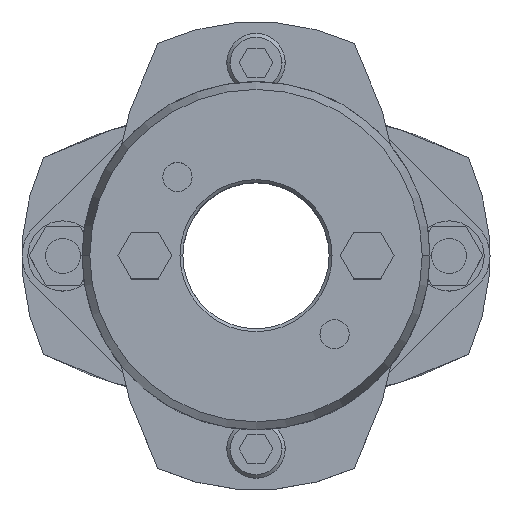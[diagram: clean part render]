
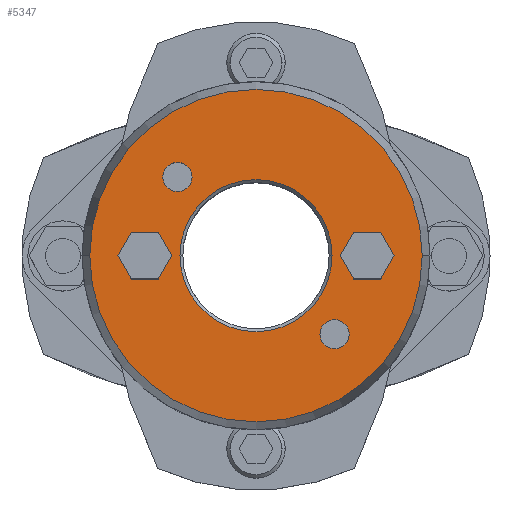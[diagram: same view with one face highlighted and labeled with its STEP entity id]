
A CAD part, top view. The second image highlights one B-rep face of the part: STEP entity #5347.
In plain terms, the highlighted planar face has unit normal (0, 0, 1).
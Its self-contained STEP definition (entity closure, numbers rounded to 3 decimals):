
#857=CARTESIAN_POINT('',(-13.,0.,35.875));
#858=VERTEX_POINT('',#857);
#874=CARTESIAN_POINT('',(13.,0.,35.875));
#875=VERTEX_POINT('',#874);
#882=CARTESIAN_POINT('',(0.,0.,35.875));
#883=DIRECTION('',(0.0,0.0,1.0));
#884=DIRECTION('',(-1.0,0.0,0.0));
#885=AXIS2_PLACEMENT_3D('',#882,#883,#884);
#886=CIRCLE('',#885,13.0);
#887=EDGE_CURVE('',#875,#858,#886,.T.);
#1003=CARTESIAN_POINT('',(28.41,0.,35.875));
#1004=VERTEX_POINT('',#1003);
#1013=CARTESIAN_POINT('',(-28.41,0.,35.875));
#1014=VERTEX_POINT('',#1013);
#1015=CARTESIAN_POINT('',(0.,0.,35.875));
#1016=DIRECTION('',(0.0,0.0,-1.0));
#1017=DIRECTION('',(1.0,0.0,0.0));
#1018=AXIS2_PLACEMENT_3D('',#1015,#1016,#1017);
#1019=CIRCLE('',#1018,28.41);
#1020=EDGE_CURVE('',#1004,#1014,#1019,.T.);
#1189=CARTESIAN_POINT('',(-15.935,13.435,35.875));
#1190=VERTEX_POINT('',#1189);
#1206=CARTESIAN_POINT('',(-10.935,13.435,35.875));
#1207=VERTEX_POINT('',#1206);
#1214=CARTESIAN_POINT('',(-13.435,13.435,35.875));
#1215=DIRECTION('',(0.0,0.0,-1.0));
#1216=DIRECTION('',(-1.0,0.0,0.0));
#1217=AXIS2_PLACEMENT_3D('',#1214,#1215,#1216);
#1218=CIRCLE('',#1217,2.5);
#1219=EDGE_CURVE('',#1190,#1207,#1218,.T.);
#1231=CARTESIAN_POINT('',(10.935,-13.435,35.875));
#1232=VERTEX_POINT('',#1231);
#1248=CARTESIAN_POINT('',(15.935,-13.435,35.875));
#1249=VERTEX_POINT('',#1248);
#1256=CARTESIAN_POINT('',(13.435,-13.435,35.875));
#1257=DIRECTION('',(0.0,0.0,-1.0));
#1258=DIRECTION('',(-1.0,0.0,0.0));
#1259=AXIS2_PLACEMENT_3D('',#1256,#1257,#1258);
#1260=CIRCLE('',#1259,2.5);
#1261=EDGE_CURVE('',#1232,#1249,#1260,.T.);
#4473=CARTESIAN_POINT('',(14.381,0.,35.875));
#4474=VERTEX_POINT('',#4473);
#4481=CARTESIAN_POINT('',(16.691,-4.,35.875));
#4482=VERTEX_POINT('',#4481);
#4483=CARTESIAN_POINT('',(16.691,-4.,35.875));
#4484=DIRECTION('',(-0.5,0.866,0.0));
#4485=VECTOR('',#4484,4.619);
#4486=LINE('',#4483,#4485);
#4487=EDGE_CURVE('',#4482,#4474,#4486,.T.);
#4511=CARTESIAN_POINT('',(16.691,4.,35.875));
#4512=VERTEX_POINT('',#4511);
#4519=CARTESIAN_POINT('',(14.381,0.,35.875));
#4520=DIRECTION('',(0.5,0.866,0.0));
#4521=VECTOR('',#4520,4.619);
#4522=LINE('',#4519,#4521);
#4523=EDGE_CURVE('',#4474,#4512,#4522,.T.);
#4542=CARTESIAN_POINT('',(21.309,4.,35.875));
#4543=VERTEX_POINT('',#4542);
#4550=CARTESIAN_POINT('',(16.691,4.,35.875));
#4551=DIRECTION('',(1.0,0.0,0.0));
#4552=VECTOR('',#4551,4.619);
#4553=LINE('',#4550,#4552);
#4554=EDGE_CURVE('',#4512,#4543,#4553,.T.);
#4573=CARTESIAN_POINT('',(23.619,0.,35.875));
#4574=VERTEX_POINT('',#4573);
#4581=CARTESIAN_POINT('',(21.309,4.,35.875));
#4582=DIRECTION('',(0.5,-0.866,0.0));
#4583=VECTOR('',#4582,4.619);
#4584=LINE('',#4581,#4583);
#4585=EDGE_CURVE('',#4543,#4574,#4584,.T.);
#4604=CARTESIAN_POINT('',(21.309,-4.,35.875));
#4605=VERTEX_POINT('',#4604);
#4612=CARTESIAN_POINT('',(23.619,0.,35.875));
#4613=DIRECTION('',(-0.5,-0.866,0.0));
#4614=VECTOR('',#4613,4.619);
#4615=LINE('',#4612,#4614);
#4616=EDGE_CURVE('',#4574,#4605,#4615,.T.);
#4634=CARTESIAN_POINT('',(21.309,-4.,35.875));
#4635=DIRECTION('',(-1.0,0.0,0.0));
#4636=VECTOR('',#4635,4.619);
#4637=LINE('',#4634,#4636);
#4638=EDGE_CURVE('',#4605,#4482,#4637,.T.);
#4673=CARTESIAN_POINT('',(-23.619,0.,35.875));
#4674=VERTEX_POINT('',#4673);
#4681=CARTESIAN_POINT('',(-21.309,-4.,35.875));
#4682=VERTEX_POINT('',#4681);
#4683=CARTESIAN_POINT('',(-21.309,-4.,35.875));
#4684=DIRECTION('',(-0.5,0.866,0.0));
#4685=VECTOR('',#4684,4.619);
#4686=LINE('',#4683,#4685);
#4687=EDGE_CURVE('',#4682,#4674,#4686,.T.);
#4711=CARTESIAN_POINT('',(-21.309,4.,35.875));
#4712=VERTEX_POINT('',#4711);
#4719=CARTESIAN_POINT('',(-23.619,0.,35.875));
#4720=DIRECTION('',(0.5,0.866,0.0));
#4721=VECTOR('',#4720,4.619);
#4722=LINE('',#4719,#4721);
#4723=EDGE_CURVE('',#4674,#4712,#4722,.T.);
#4742=CARTESIAN_POINT('',(-16.691,4.,35.875));
#4743=VERTEX_POINT('',#4742);
#4750=CARTESIAN_POINT('',(-21.309,4.,35.875));
#4751=DIRECTION('',(1.0,0.0,0.0));
#4752=VECTOR('',#4751,4.619);
#4753=LINE('',#4750,#4752);
#4754=EDGE_CURVE('',#4712,#4743,#4753,.T.);
#4773=CARTESIAN_POINT('',(-14.381,0.,35.875));
#4774=VERTEX_POINT('',#4773);
#4781=CARTESIAN_POINT('',(-16.691,4.,35.875));
#4782=DIRECTION('',(0.5,-0.866,0.0));
#4783=VECTOR('',#4782,4.619);
#4784=LINE('',#4781,#4783);
#4785=EDGE_CURVE('',#4743,#4774,#4784,.T.);
#4804=CARTESIAN_POINT('',(-16.691,-4.,35.875));
#4805=VERTEX_POINT('',#4804);
#4812=CARTESIAN_POINT('',(-14.381,0.,35.875));
#4813=DIRECTION('',(-0.5,-0.866,0.0));
#4814=VECTOR('',#4813,4.619);
#4815=LINE('',#4812,#4814);
#4816=EDGE_CURVE('',#4774,#4805,#4815,.T.);
#4834=CARTESIAN_POINT('',(-16.691,-4.,35.875));
#4835=DIRECTION('',(-1.0,0.0,0.0));
#4836=VECTOR('',#4835,4.619);
#4837=LINE('',#4834,#4836);
#4838=EDGE_CURVE('',#4805,#4682,#4837,.T.);
#4864=CARTESIAN_POINT('',(13.435,-13.435,35.875));
#4865=DIRECTION('',(0.0,0.0,-1.0));
#4866=DIRECTION('',(-1.0,0.0,0.0));
#4867=AXIS2_PLACEMENT_3D('',#4864,#4865,#4866);
#4868=CIRCLE('',#4867,2.5);
#4869=EDGE_CURVE('',#1249,#1232,#4868,.T.);
#4898=CARTESIAN_POINT('',(-13.435,13.435,35.875));
#4899=DIRECTION('',(0.0,0.0,-1.0));
#4900=DIRECTION('',(-1.0,0.0,0.0));
#4901=AXIS2_PLACEMENT_3D('',#4898,#4899,#4900);
#4902=CIRCLE('',#4901,2.5);
#4903=EDGE_CURVE('',#1207,#1190,#4902,.T.);
#5294=CARTESIAN_POINT('',(0.,0.,35.875));
#5295=DIRECTION('',(0.0,0.0,-1.0));
#5296=DIRECTION('',(1.0,0.0,0.0));
#5297=AXIS2_PLACEMENT_3D('',#5294,#5295,#5296);
#5298=CIRCLE('',#5297,28.41);
#5299=EDGE_CURVE('',#1014,#1004,#5298,.T.);
#5304=CARTESIAN_POINT('',(-2.364,0.,35.875));
#5305=DIRECTION('',(0.0,0.0,1.0));
#5306=DIRECTION('',(-1.0,0.0,0.0));
#5307=AXIS2_PLACEMENT_3D('',#5304,#5305,#5306);
#5308=PLANE('',#5307);
#5309=ORIENTED_EDGE('',*,*,#5299,.F.);
#5310=ORIENTED_EDGE('',*,*,#1020,.F.);
#5311=EDGE_LOOP('',(#5309,#5310));
#5312=FACE_OUTER_BOUND('',#5311,.T.);
#5313=ORIENTED_EDGE('',*,*,#4487,.T.);
#5314=ORIENTED_EDGE('',*,*,#4523,.T.);
#5315=ORIENTED_EDGE('',*,*,#4554,.T.);
#5316=ORIENTED_EDGE('',*,*,#4585,.T.);
#5317=ORIENTED_EDGE('',*,*,#4616,.T.);
#5318=ORIENTED_EDGE('',*,*,#4638,.T.);
#5319=EDGE_LOOP('',(#5313,#5314,#5315,#5316,#5317,#5318));
#5320=FACE_BOUND('',#5319,.T.);
#5321=ORIENTED_EDGE('',*,*,#4687,.T.);
#5322=ORIENTED_EDGE('',*,*,#4723,.T.);
#5323=ORIENTED_EDGE('',*,*,#4754,.T.);
#5324=ORIENTED_EDGE('',*,*,#4785,.T.);
#5325=ORIENTED_EDGE('',*,*,#4816,.T.);
#5326=ORIENTED_EDGE('',*,*,#4838,.T.);
#5327=EDGE_LOOP('',(#5321,#5322,#5323,#5324,#5325,#5326));
#5328=FACE_BOUND('',#5327,.T.);
#5329=ORIENTED_EDGE('',*,*,#1261,.T.);
#5330=ORIENTED_EDGE('',*,*,#4869,.T.);
#5331=EDGE_LOOP('',(#5329,#5330));
#5332=FACE_BOUND('',#5331,.T.);
#5333=ORIENTED_EDGE('',*,*,#1219,.T.);
#5334=ORIENTED_EDGE('',*,*,#4903,.T.);
#5335=EDGE_LOOP('',(#5333,#5334));
#5336=FACE_BOUND('',#5335,.T.);
#5337=ORIENTED_EDGE('',*,*,#887,.F.);
#5338=CARTESIAN_POINT('',(0.,0.,35.875));
#5339=DIRECTION('',(0.0,0.0,1.0));
#5340=DIRECTION('',(-1.0,0.0,0.0));
#5341=AXIS2_PLACEMENT_3D('',#5338,#5339,#5340);
#5342=CIRCLE('',#5341,13.0);
#5343=EDGE_CURVE('',#858,#875,#5342,.T.);
#5344=ORIENTED_EDGE('',*,*,#5343,.F.);
#5345=EDGE_LOOP('',(#5337,#5344));
#5346=FACE_BOUND('',#5345,.T.);
#5347=ADVANCED_FACE('',(#5312,#5320,#5328,#5332,#5336,#5346),#5308,.T.);
